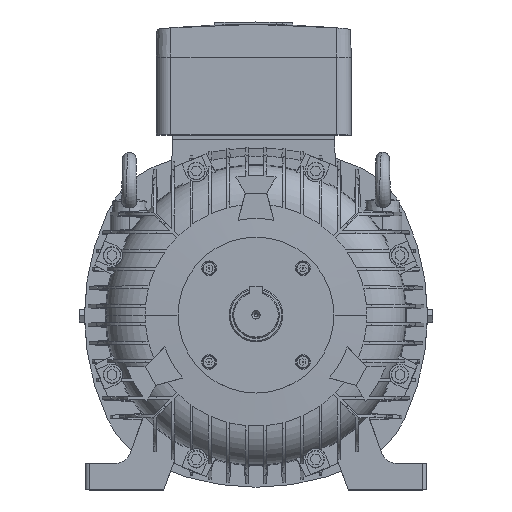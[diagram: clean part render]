
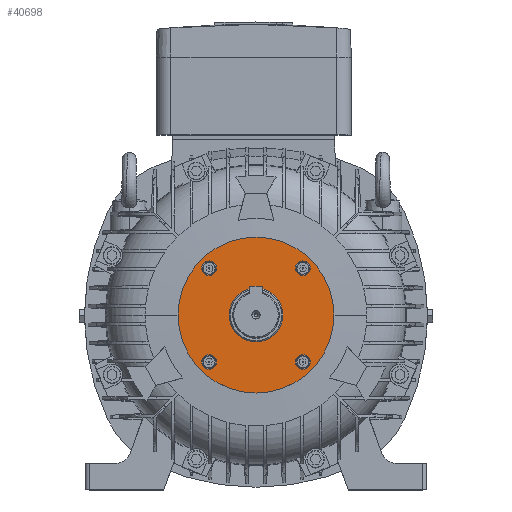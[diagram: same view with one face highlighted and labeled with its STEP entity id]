
A CAD part, top view. The second image highlights one B-rep face of the part: STEP entity #40698.
In plain terms, the highlighted planar face has unit normal (0, 0, 1).
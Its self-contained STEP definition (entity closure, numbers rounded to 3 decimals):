
#831 = AXIS2_PLACEMENT_3D ( 'NONE', #954, #953, #952 ) ;
#832 = CIRCLE ( 'NONE', #831, 27.55 ) ;
#880 = CARTESIAN_POINT ( 'NONE',  ( -27.55, 0., 237. ) ) ;
#951 = CARTESIAN_POINT ( 'NONE',  ( 27.55, 0., 237. ) ) ;
#952 = DIRECTION ( 'NONE',  ( -1., 0., 0. ) ) ;
#953 = DIRECTION ( 'NONE',  ( 0., 0., -1. ) ) ;
#954 = CARTESIAN_POINT ( 'NONE',  ( 0., 0., 237. ) ) ;
#2306 = DIRECTION ( 'NONE',  ( -1., 0., 0. ) ) ;
#2307 = DIRECTION ( 'NONE',  ( 0., 0., 1. ) ) ;
#2308 = CARTESIAN_POINT ( 'NONE',  ( 48.083, -48.083, 237. ) ) ;
#2309 = AXIS2_PLACEMENT_3D ( 'NONE', #2308, #2307, #2306 ) ;
#2310 = CIRCLE ( 'NONE', #2309, 7.5 ) ;
#3715 = VERTEX_POINT ( 'NONE', #42399 ) ;
#5962 = CARTESIAN_POINT ( 'NONE',  ( 55.583, 48.083, 237. ) ) ;
#7388 = VERTEX_POINT ( 'NONE', #62539 ) ;
#7428 = EDGE_CURVE ( 'NONE', #7388, #8713, #67408, .T. ) ;
#7685 = VERTEX_POINT ( 'NONE', #68775 ) ;
#7706 = EDGE_CURVE ( 'NONE', #49139, #7685, #68835, .T. ) ;
#8082 = VERTEX_POINT ( 'NONE', #880 ) ;
#8092 = EDGE_CURVE ( 'NONE', #8093, #8082, #832, .T. ) ;
#8093 = VERTEX_POINT ( 'NONE', #951 ) ;
#8130 = EDGE_LOOP ( 'NONE', ( #63285, #63020 ) ) ;
#8155 = EDGE_CURVE ( 'NONE', #7685, #49139, #2310, .T. ) ;
#8713 = VERTEX_POINT ( 'NONE', #5962 ) ;
#11650 = CARTESIAN_POINT ( 'NONE',  ( -40.583, 48.083, 237. ) ) ;
#11689 = CARTESIAN_POINT ( 'NONE',  ( -55.583, 48.083, 237. ) ) ;
#11690 = DIRECTION ( 'NONE',  ( -1., 0., 0. ) ) ;
#11691 = DIRECTION ( 'NONE',  ( 0., 0., 1. ) ) ;
#11692 = CARTESIAN_POINT ( 'NONE',  ( -48.083, 48.083, 237. ) ) ;
#11693 = AXIS2_PLACEMENT_3D ( 'NONE', #11692, #11691, #11690 ) ;
#11697 = CIRCLE ( 'NONE', #11693, 7.5 ) ;
#19153 = CARTESIAN_POINT ( 'NONE',  ( -80., 0., 237. ) ) ;
#19170 = DIRECTION ( 'NONE',  ( -1., 0., 0. ) ) ;
#19172 = DIRECTION ( 'NONE',  ( 0., 0., -1. ) ) ;
#19174 = CARTESIAN_POINT ( 'NONE',  ( 0., 0., 237. ) ) ;
#19176 = AXIS2_PLACEMENT_3D ( 'NONE', #19174, #19172, #19170 ) ;
#19178 = CIRCLE ( 'NONE', #19176, 80. ) ;
#32045 = VERTEX_POINT ( 'NONE', #11650 ) ;
#32053 = EDGE_CURVE ( 'NONE', #32059, #32045, #11697, .T. ) ;
#32059 = VERTEX_POINT ( 'NONE', #11689 ) ;
#33164 = DIRECTION ( 'NONE',  ( 1., 0., 0. ) ) ;
#33165 = DIRECTION ( 'NONE',  ( 0., 0., 1. ) ) ;
#33166 = CARTESIAN_POINT ( 'NONE',  ( -48.083, -48.083, 237. ) ) ;
#33167 = AXIS2_PLACEMENT_3D ( 'NONE', #33166, #33165, #33164 ) ;
#33173 = CIRCLE ( 'NONE', #33167, 7.5 ) ;
#36914 = DIRECTION ( 'NONE',  ( -1., 0., 0. ) ) ;
#36915 = DIRECTION ( 'NONE',  ( 0., 0., -1. ) ) ;
#36916 = CARTESIAN_POINT ( 'NONE',  ( 0., 0., 237. ) ) ;
#36917 = AXIS2_PLACEMENT_3D ( 'NONE', #36916, #36915, #36914 ) ;
#36918 = CIRCLE ( 'NONE', #36917, 27.55 ) ;
#36920 = DIRECTION ( 'NONE',  ( 1., 0., 0. ) ) ;
#36921 = DIRECTION ( 'NONE',  ( 0., 0., 1. ) ) ;
#36922 = CARTESIAN_POINT ( 'NONE',  ( 48.083, 48.083, 237. ) ) ;
#36923 = AXIS2_PLACEMENT_3D ( 'NONE', #36922, #36921, #36920 ) ;
#36930 = CIRCLE ( 'NONE', #36923, 7.5 ) ;
#40596 = EDGE_CURVE ( 'NONE', #51989, #56743, #63667, .T. ) ;
#40608 = EDGE_LOOP ( 'NONE', ( #40617, #62952 ) ) ;
#40609 = EDGE_CURVE ( 'NONE', #32045, #32059, #63638, .T. ) ;
#40617 = ORIENTED_EDGE ( 'NONE', *, *, #40609, .F. ) ;
#40698 = ADVANCED_FACE ( 'NONE', ( #43608, #43607, #43606, #43605, #43604, #43603 ), #43602, .F. ) ;
#42399 = CARTESIAN_POINT ( 'NONE',  ( -55.583, -48.083, 237. ) ) ;
#43598 = DIRECTION ( 'NONE',  ( -1., 0., 0. ) ) ;
#43599 = DIRECTION ( 'NONE',  ( 0., 0., -1. ) ) ;
#43600 = CARTESIAN_POINT ( 'NONE',  ( 0., 80., 237. ) ) ;
#43601 = AXIS2_PLACEMENT_3D ( 'NONE', #43600, #43599, #43598 ) ;
#43602 = PLANE ( 'NONE',  #43601 ) ;
#43603 = FACE_BOUND ( 'NONE', #63017, .T. ) ;
#43604 = FACE_OUTER_BOUND ( 'NONE', #8130, .T. ) ;
#43605 = FACE_BOUND ( 'NONE', #63325, .T. ) ;
#43606 = FACE_BOUND ( 'NONE', #61282, .T. ) ;
#43607 = FACE_BOUND ( 'NONE', #62945, .T. ) ;
#43608 = FACE_BOUND ( 'NONE', #40608, .T. ) ;
#44374 = CARTESIAN_POINT ( 'NONE',  ( 80., 0., 237. ) ) ;
#49139 = VERTEX_POINT ( 'NONE', #69023 ) ;
#49859 = VERTEX_POINT ( 'NONE', #69189 ) ;
#50124 = EDGE_CURVE ( 'NONE', #3715, #49859, #69337, .T. ) ;
#51989 = VERTEX_POINT ( 'NONE', #44374 ) ;
#56743 = VERTEX_POINT ( 'NONE', #19153 ) ;
#56778 = EDGE_CURVE ( 'NONE', #56743, #51989, #19178, .T. ) ;
#61282 = EDGE_LOOP ( 'NONE', ( #61340, #63016 ) ) ;
#61340 = ORIENTED_EDGE ( 'NONE', *, *, #8155, .F. ) ;
#62539 = CARTESIAN_POINT ( 'NONE',  ( 40.583, 48.083, 237. ) ) ;
#62943 = ORIENTED_EDGE ( 'NONE', *, *, #62974, .F. ) ;
#62945 = EDGE_LOOP ( 'NONE', ( #62943, #62958 ) ) ;
#62952 = ORIENTED_EDGE ( 'NONE', *, *, #32053, .F. ) ;
#62958 = ORIENTED_EDGE ( 'NONE', *, *, #50124, .F. ) ;
#62974 = EDGE_CURVE ( 'NONE', #49859, #3715, #33173, .T. ) ;
#63016 = ORIENTED_EDGE ( 'NONE', *, *, #7706, .F. ) ;
#63017 = EDGE_LOOP ( 'NONE', ( #66275, #66086 ) ) ;
#63020 = ORIENTED_EDGE ( 'NONE', *, *, #40596, .F. ) ;
#63285 = ORIENTED_EDGE ( 'NONE', *, *, #56778, .F. ) ;
#63325 = EDGE_LOOP ( 'NONE', ( #66084, #66357 ) ) ;
#63630 = CARTESIAN_POINT ( 'NONE',  ( 0., 0., 237. ) ) ;
#63634 = DIRECTION ( 'NONE',  ( -1., 0., 0. ) ) ;
#63636 = DIRECTION ( 'NONE',  ( 0., 0., 1. ) ) ;
#63637 = AXIS2_PLACEMENT_3D ( 'NONE', #63647, #63636, #63634 ) ;
#63638 = CIRCLE ( 'NONE', #63637, 7.5 ) ;
#63647 = CARTESIAN_POINT ( 'NONE',  ( -48.083, 48.083, 237. ) ) ;
#63663 = DIRECTION ( 'NONE',  ( -1., 0., 0. ) ) ;
#63664 = DIRECTION ( 'NONE',  ( 0., 0., -1. ) ) ;
#63666 = AXIS2_PLACEMENT_3D ( 'NONE', #63630, #63664, #63663 ) ;
#63667 = CIRCLE ( 'NONE', #63666, 80. ) ;
#66084 = ORIENTED_EDGE ( 'NONE', *, *, #66193, .F. ) ;
#66086 = ORIENTED_EDGE ( 'NONE', *, *, #8092, .T. ) ;
#66193 = EDGE_CURVE ( 'NONE', #8713, #7388, #36930, .T. ) ;
#66275 = ORIENTED_EDGE ( 'NONE', *, *, #66277, .T. ) ;
#66277 = EDGE_CURVE ( 'NONE', #8082, #8093, #36918, .T. ) ;
#66357 = ORIENTED_EDGE ( 'NONE', *, *, #7428, .F. ) ;
#67403 = DIRECTION ( 'NONE',  ( 1., 0., 0. ) ) ;
#67405 = DIRECTION ( 'NONE',  ( 0., 0., 1. ) ) ;
#67406 = AXIS2_PLACEMENT_3D ( 'NONE', #67420, #67405, #67403 ) ;
#67408 = CIRCLE ( 'NONE', #67406, 7.5 ) ;
#67420 = CARTESIAN_POINT ( 'NONE',  ( 48.083, 48.083, 237. ) ) ;
#68775 = CARTESIAN_POINT ( 'NONE',  ( 55.583, -48.083, 237. ) ) ;
#68835 = CIRCLE ( 'NONE', #68960, 7.5 ) ;
#68955 = DIRECTION ( 'NONE',  ( -1., 0., 0. ) ) ;
#68956 = DIRECTION ( 'NONE',  ( 0., 0., 1. ) ) ;
#68958 = CARTESIAN_POINT ( 'NONE',  ( 48.083, -48.083, 237. ) ) ;
#68960 = AXIS2_PLACEMENT_3D ( 'NONE', #68958, #68956, #68955 ) ;
#69023 = CARTESIAN_POINT ( 'NONE',  ( 40.583, -48.083, 237. ) ) ;
#69189 = CARTESIAN_POINT ( 'NONE',  ( -40.583, -48.083, 237. ) ) ;
#69329 = DIRECTION ( 'NONE',  ( 1., 0., 0. ) ) ;
#69330 = DIRECTION ( 'NONE',  ( 0., 0., 1. ) ) ;
#69333 = CARTESIAN_POINT ( 'NONE',  ( -48.083, -48.083, 237. ) ) ;
#69335 = AXIS2_PLACEMENT_3D ( 'NONE', #69333, #69330, #69329 ) ;
#69337 = CIRCLE ( 'NONE', #69335, 7.5 ) ;
